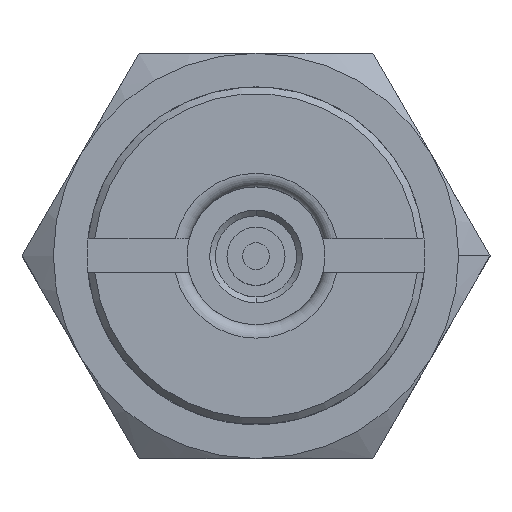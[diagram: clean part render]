
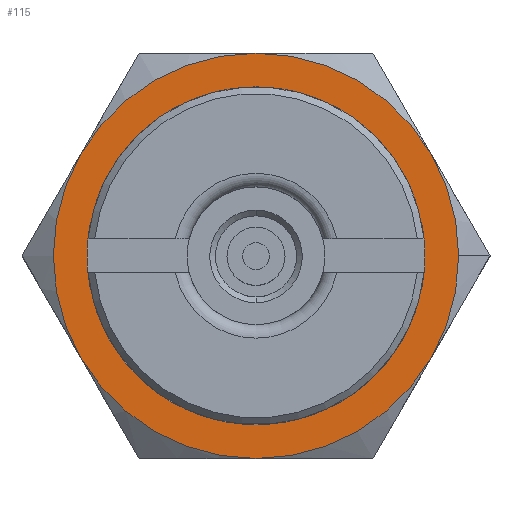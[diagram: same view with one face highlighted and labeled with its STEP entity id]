
A CAD part, top view. The second image highlights one B-rep face of the part: STEP entity #115.
In plain terms, the highlighted planar face has unit normal (0, 0, 1).
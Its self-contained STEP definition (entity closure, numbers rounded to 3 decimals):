
#14 = CARTESIAN_POINT ( 'NONE',  ( -7.5, -12.99, 12. ) ) ;
#15 = DIRECTION ( 'NONE',  ( -1., 0., 0. ) ) ;
#85 = VERTEX_POINT ( 'NONE', #1353 ) ;
#89 = ORIENTED_EDGE ( 'NONE', *, *, #3494, .F. ) ;
#115 = ADVANCED_FACE ( 'NONE', ( #402, #3949 ), #3290, .T. ) ;
#136 = AXIS2_PLACEMENT_3D ( 'NONE', #2855, #2606, #1926 ) ;
#174 = DIRECTION ( 'NONE',  ( 0., 0., -1. ) ) ;
#198 = AXIS2_PLACEMENT_3D ( 'NONE', #3696, #798, #545 ) ;
#223 = ORIENTED_EDGE ( 'NONE', *, *, #231, .F. ) ;
#231 = EDGE_CURVE ( 'NONE', #653, #2174, #2465, .T. ) ;
#271 = CARTESIAN_POINT ( 'NONE',  ( 7.5, 12.99, 12. ) ) ;
#279 = AXIS2_PLACEMENT_3D ( 'NONE', #3461, #916, #15 ) ;
#347 = DIRECTION ( 'NONE',  ( 0., 0., 1. ) ) ;
#402 = FACE_OUTER_BOUND ( 'NONE', #3168, .T. ) ;
#459 = EDGE_LOOP ( 'NONE', ( #563, #2902 ) ) ;
#545 = DIRECTION ( 'NONE',  ( -1., 0., 0. ) ) ;
#563 = ORIENTED_EDGE ( 'NONE', *, *, #3275, .F. ) ;
#599 = DIRECTION ( 'NONE',  ( 0., 0., -1. ) ) ;
#653 = VERTEX_POINT ( 'NONE', #3438 ) ;
#677 = CIRCLE ( 'NONE', #3280, 15. ) ;
#703 = CARTESIAN_POINT ( 'NONE',  ( 10., 0., 12. ) ) ;
#733 = AXIS2_PLACEMENT_3D ( 'NONE', #1100, #3619, #763 ) ;
#763 = DIRECTION ( 'NONE',  ( 1., 0., 0. ) ) ;
#771 = ORIENTED_EDGE ( 'NONE', *, *, #3092, .F. ) ;
#798 = DIRECTION ( 'NONE',  ( 0., 0., -1. ) ) ;
#826 = ORIENTED_EDGE ( 'NONE', *, *, #2601, .F. ) ;
#841 = VERTEX_POINT ( 'NONE', #3504 ) ;
#861 = ORIENTED_EDGE ( 'NONE', *, *, #1753, .F. ) ;
#867 = AXIS2_PLACEMENT_3D ( 'NONE', #2244, #3817, #2579 ) ;
#874 = CIRCLE ( 'NONE', #1419, 15. ) ;
#916 = DIRECTION ( 'NONE',  ( 0., 0., -1. ) ) ;
#1095 = CARTESIAN_POINT ( 'NONE',  ( 0., 0., 12. ) ) ;
#1100 = CARTESIAN_POINT ( 'NONE',  ( 0., 17.321, 12. ) ) ;
#1119 = DIRECTION ( 'NONE',  ( -1., 0., 0. ) ) ;
#1194 = AXIS2_PLACEMENT_3D ( 'NONE', #1646, #347, #3839 ) ;
#1218 = DIRECTION ( 'NONE',  ( 0., 0., 1. ) ) ;
#1220 = AXIS2_PLACEMENT_3D ( 'NONE', #1552, #599, #1895 ) ;
#1244 = EDGE_CURVE ( 'NONE', #2701, #2168, #2459, .T. ) ;
#1275 = CARTESIAN_POINT ( 'NONE',  ( -7.5, 12.99, 12. ) ) ;
#1353 = CARTESIAN_POINT ( 'NONE',  ( 0., 15., 12. ) ) ;
#1419 = AXIS2_PLACEMENT_3D ( 'NONE', #1095, #2385, #3020 ) ;
#1551 = CARTESIAN_POINT ( 'NONE',  ( -10., 0., 12. ) ) ;
#1552 = CARTESIAN_POINT ( 'NONE',  ( 0., 0., 12. ) ) ;
#1624 = ORIENTED_EDGE ( 'NONE', *, *, #3515, .F. ) ;
#1646 = CARTESIAN_POINT ( 'NONE',  ( 0., 0., 12. ) ) ;
#1753 = EDGE_CURVE ( 'NONE', #85, #3503, #3466, .T. ) ;
#1776 = CARTESIAN_POINT ( 'NONE',  ( 15., 0., 12. ) ) ;
#1852 = DIRECTION ( 'NONE',  ( 1., 0., 0. ) ) ;
#1895 = DIRECTION ( 'NONE',  ( -1., 0., 0. ) ) ;
#1926 = DIRECTION ( 'NONE',  ( -1., 0., 0. ) ) ;
#2157 = CIRCLE ( 'NONE', #279, 15. ) ;
#2168 = VERTEX_POINT ( 'NONE', #1551 ) ;
#2174 = VERTEX_POINT ( 'NONE', #14 ) ;
#2188 = ORIENTED_EDGE ( 'NONE', *, *, #2810, .F. ) ;
#2220 = AXIS2_PLACEMENT_3D ( 'NONE', #3730, #1218, #1852 ) ;
#2244 = CARTESIAN_POINT ( 'NONE',  ( 0., 0., 12. ) ) ;
#2385 = DIRECTION ( 'NONE',  ( 0., 0., -1. ) ) ;
#2459 = CIRCLE ( 'NONE', #1194, 10. ) ;
#2465 = CIRCLE ( 'NONE', #198, 15. ) ;
#2579 = DIRECTION ( 'NONE',  ( -1., 0., 0. ) ) ;
#2601 = EDGE_CURVE ( 'NONE', #2174, #841, #3207, .T. ) ;
#2606 = DIRECTION ( 'NONE',  ( 0., 0., -1. ) ) ;
#2626 = CIRCLE ( 'NONE', #1220, 15. ) ;
#2701 = VERTEX_POINT ( 'NONE', #703 ) ;
#2810 = EDGE_CURVE ( 'NONE', #3736, #85, #677, .T. ) ;
#2842 = VERTEX_POINT ( 'NONE', #1776 ) ;
#2855 = CARTESIAN_POINT ( 'NONE',  ( 0., 0., 12. ) ) ;
#2902 = ORIENTED_EDGE ( 'NONE', *, *, #1244, .F. ) ;
#3020 = DIRECTION ( 'NONE',  ( -1., 0., 0. ) ) ;
#3092 = EDGE_CURVE ( 'NONE', #3503, #2842, #874, .T. ) ;
#3168 = EDGE_LOOP ( 'NONE', ( #89, #771, #861, #2188, #1624, #826, #223 ) ) ;
#3207 = CIRCLE ( 'NONE', #136, 15. ) ;
#3275 = EDGE_CURVE ( 'NONE', #2168, #2701, #4006, .T. ) ;
#3280 = AXIS2_PLACEMENT_3D ( 'NONE', #3967, #174, #1119 ) ;
#3290 = PLANE ( 'NONE',  #733 ) ;
#3438 = CARTESIAN_POINT ( 'NONE',  ( 7.5, -12.99, 12. ) ) ;
#3461 = CARTESIAN_POINT ( 'NONE',  ( 0., 0., 12. ) ) ;
#3466 = CIRCLE ( 'NONE', #867, 15. ) ;
#3494 = EDGE_CURVE ( 'NONE', #2842, #653, #2157, .T. ) ;
#3503 = VERTEX_POINT ( 'NONE', #271 ) ;
#3504 = CARTESIAN_POINT ( 'NONE',  ( -15., 0., 12. ) ) ;
#3515 = EDGE_CURVE ( 'NONE', #841, #3736, #2626, .T. ) ;
#3619 = DIRECTION ( 'NONE',  ( 0., 0., 1. ) ) ;
#3696 = CARTESIAN_POINT ( 'NONE',  ( 0., 0., 12. ) ) ;
#3730 = CARTESIAN_POINT ( 'NONE',  ( 0., 0., 12. ) ) ;
#3736 = VERTEX_POINT ( 'NONE', #1275 ) ;
#3817 = DIRECTION ( 'NONE',  ( 0., 0., -1. ) ) ;
#3839 = DIRECTION ( 'NONE',  ( 1., 0., 0. ) ) ;
#3949 = FACE_BOUND ( 'NONE', #459, .T. ) ;
#3967 = CARTESIAN_POINT ( 'NONE',  ( 0., 0., 12. ) ) ;
#4006 = CIRCLE ( 'NONE', #2220, 10. ) ;
